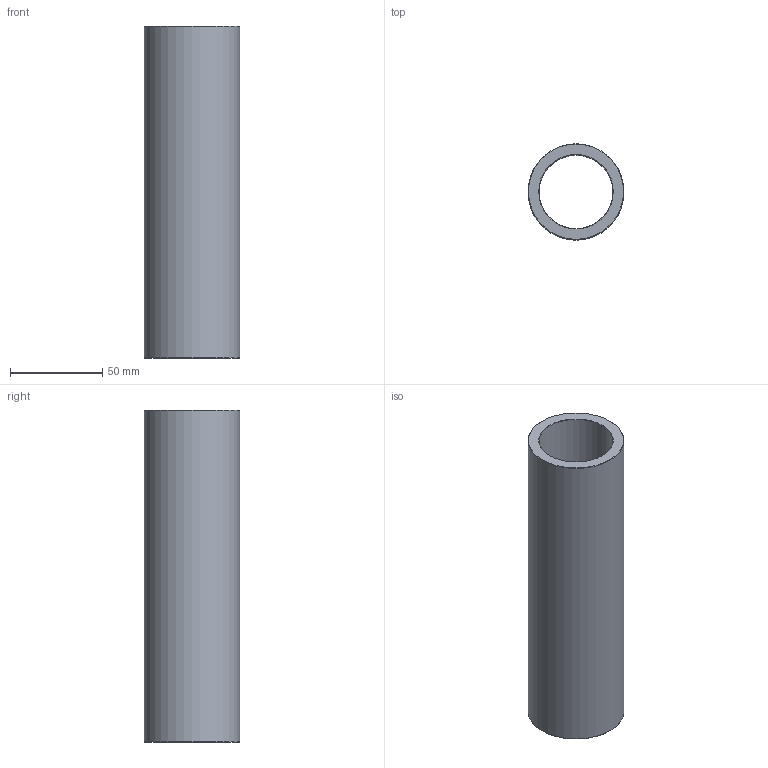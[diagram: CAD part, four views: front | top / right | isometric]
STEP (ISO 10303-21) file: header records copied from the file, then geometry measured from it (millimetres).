
FILE_DESCRIPTION(('STEP AP203'),'1');
FILE_NAME('C:/Users/Rodrigo/Desktop/GA6.040.180-1.step','2016-11-07T18:57:01',(' '),(' '),'Spatial InterOp 3D',' ',' ');
FILE_SCHEMA(('CONFIG_CONTROL_DESIGN'));
Length unit declared in the file: millimetre
Products named in the file (1): 1
Bounding box: 52 x 52 x 180 mm (x, y, z)
Volume: 156062.8 mm3; surface area: 53691.2 mm2
Topology: 1 solids, 1 shells, 8 faces, 14 edges, 8 vertices
Faces by surface type: cone 4, cylinder 2, plane 2
Full cylindrical faces by diameter (mm): 40 x1, 52 x1
Entity records: 212 total; most frequent: DIRECTION 34, CARTESIAN_POINT 25, AXIS2_PLACEMENT_3D 17, EDGE_LOOP 16, ORIENTED_EDGE 16, FACE_OUTER_BOUND 10, ADVANCED_FACE 8, EDGE_CURVE 8
